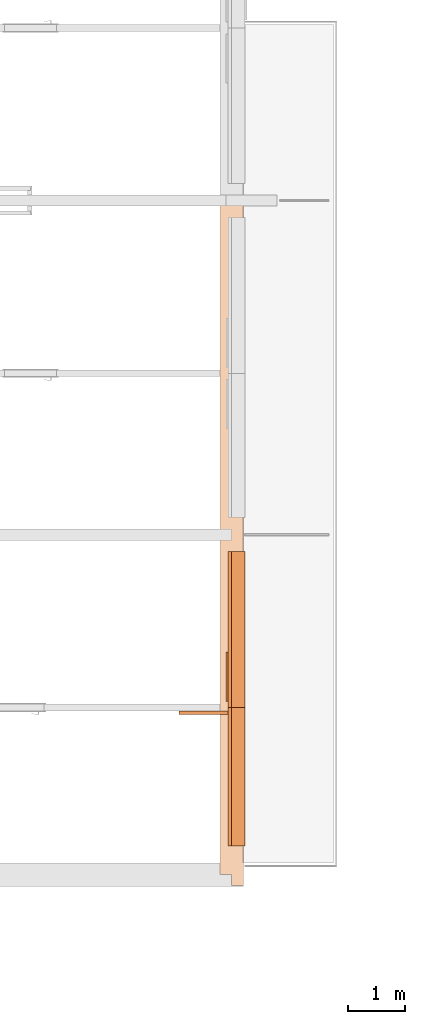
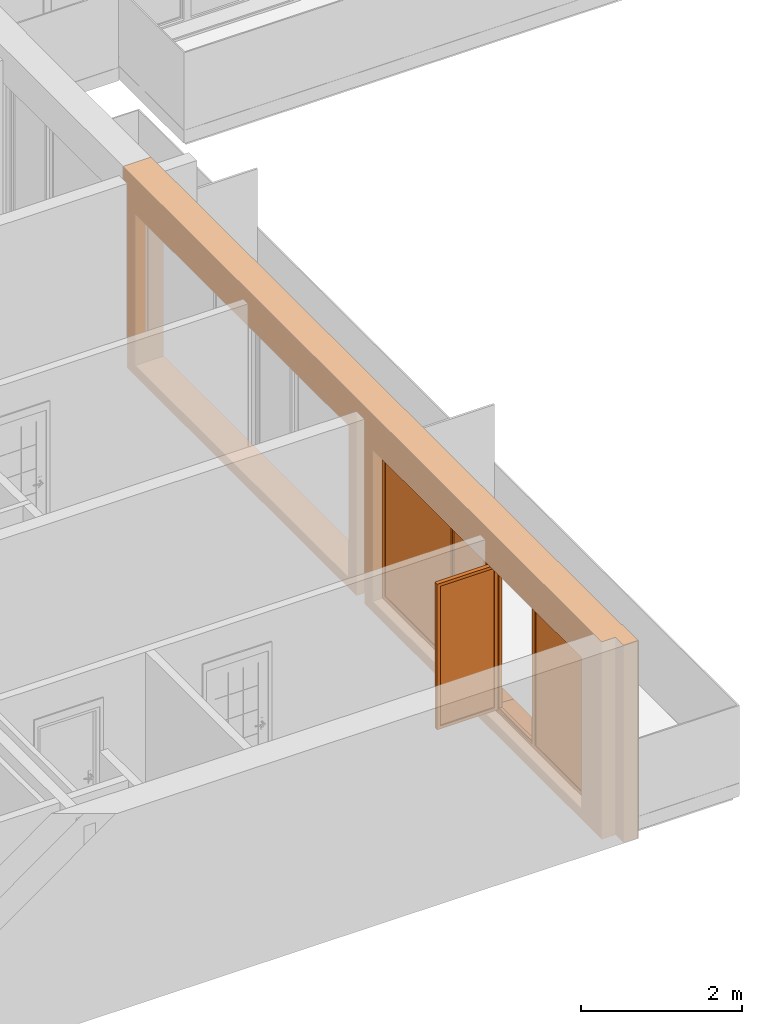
# One storey, part 45 of 64: 2 proxies, 4 openings, plus 1 element that does not belong to this part.
"""IFC2X3 building model written with IfcOpenShell, lengths in millimetres."""

from ifc_helpers import new_model, entity, si_unit, converted_unit, derived_unit, money_unit, direction, frame, origin_with_axes, origin_2d_with_axis, place, context, subcontext, project, spatial, rectangle, extrude, open_shell, faceted_brep, surface_model, source, transform, mapped, material, material_list, type_object, element, fill, save


model = new_model("IFC2X3")

# Units and contexts
model_context = context("Model", 3, precision=0.01, world=origin_with_axes(), true_north=direction((0.34421633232, 0.938890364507)))
body_context = subcontext(model_context, "Body", "Model", "MODEL_VIEW")
ifc_project = project(units=[si_unit("LENGTHUNIT", "METRE", prefix="MILLI"), si_unit("AREAUNIT", "SQUARE_METRE"), si_unit("VOLUMEUNIT", "CUBIC_METRE"), converted_unit("PLANEANGLEUNIT", "DEGREE", entity("IfcPlaneAngleMeasure", 0.0174532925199), si_unit("PLANEANGLEUNIT", "RADIAN"), dimensions=[0, 0, 0, 0, 0, 0, 0]), si_unit("SOLIDANGLEUNIT", "STERADIAN"), money_unit("USD"), converted_unit("TIMEUNIT", "Year", entity("IfcTimeMeasure", 31556926.0), si_unit("TIMEUNIT", "SECOND"), dimensions=[0, 0, 1, 0, 0, 0, 0]), si_unit("MASSUNIT", "GRAM", prefix="KILO"), si_unit("THERMODYNAMICTEMPERATUREUNIT", "DEGREE_CELSIUS"), si_unit("LUMINOUSINTENSITYUNIT", "LUMEN"), si_unit("ENERGYUNIT", "JOULE", prefix="MEGA"), derived_unit("THERMALCONDUCTANCEUNIT", [(si_unit("POWERUNIT", "WATT"), 1), (si_unit("LENGTHUNIT", "METRE"), -1), (si_unit("THERMODYNAMICTEMPERATUREUNIT", "KELVIN"), -1)]), derived_unit("SPECIFICHEATCAPACITYUNIT", [(si_unit("ENERGYUNIT", "JOULE"), 1), (si_unit("MASSUNIT", "GRAM", prefix="KILO"), -1), (si_unit("THERMODYNAMICTEMPERATUREUNIT", "KELVIN"), -1)]), derived_unit("MASSDENSITYUNIT", [(si_unit("MASSUNIT", "GRAM", prefix="KILO"), 1), (si_unit("VOLUMEUNIT", "CUBIC_METRE"), -1)])], contexts=[model_context])

# Site, building, storey
site_placement = place(None, origin_with_axes())
site = spatial("IfcSite", under=ifc_project, at=site_placement, Name="USTRONIE MORSKIE", CompositionType="ELEMENT")
building_placement = place(site_placement, origin_with_axes())
building = spatial("IfcBuilding", under=site, at=building_placement, Name="Budynek", CompositionType="ELEMENT")
storey_placement = place(building_placement, frame((0.0, 0.0, 7000.0), z_axis=(0.0, 0.0, 1.0), x_axis=(1.0, 0.0, 0.0)))
storey = spatial("IfcBuildingStorey", under=building, at=storey_placement, Name="PIĘTRO 2", CompositionType="ELEMENT", Elevation=7000.0)

# Proxies, openings
ifc_material_1 = material(Name="Beton konstrukcyjny B25")
ifc_material_2 = material(Name="Wełna ELEW")
ifc_material_3 = material(Name="Tynk zewnętrzny")
ifc_material_list = material_list([ifc_material_1, ifc_material_2, ifc_material_3])
building_element_proxy_type_1 = type_object("IfcBuildingElementProxyType", Name="20+20 410", PredefinedType="NOTDEFINED")
proxy_1_placement = place(storey_placement, frame((367067.957311, 709201.199036, -160.0), z_axis=(0.0, 0.0, 1.0), x_axis=(-2.10080135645e-06, 0.999999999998, 0.0)))
proxy_1 = element("IfcBuildingElementProxy", 1, at=proxy_1_placement, inside=storey, type_object=building_element_proxy_type_1, material=ifc_material_list, Name="SZ-01", context=body_context, shape_type="Brep", body=[
    faceted_brep([(5799.99975733, -100.0, 0.0), (5799.99975733, -100.0, 2800.0), (5999.99975734, -100.0, 2800.0), (5999.99975734, -100.0, 0.0), (11699.9997899, -100.0, 0.0), (11699.9997899, -100.0, 2800.0), (11800.0, -100.0, 2800.0), (11800.0, -100.0, 3000.0), (-100.00021008, -100.0, 3000.0), (-100.00021008, -100.0, 0.0), (5800.0001775, 100.0, 0.0), (5800.0001775, 100.0, 2800.0), (6000.0001775, 100.0, 2800.0), (6000.0001775, 100.0, 0.0), (11700.0002101, 100.0, 0.0), (11700.0, 7.00267150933e-05, 0.0), (11700.0, 7.00267150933e-05, 2800.0), (11800.0, 7.00267150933e-05, 2800.0), (11800.0, 100.0, 2800.0), (11800.0, 100.0, 3000.0), (-99.99978992, 100.0, 3000.0), (-99.99978992, 100.0, 0.0), (11700.0002101, 100.0, 2800.0)], [[[0, 1, 2, 3, 4, 5, 6, 7, 8, 9]], [[1, 0, 10, 11]], [[2, 1, 11, 12]], [[3, 2, 12, 13]], [[3, 13, 14, 15, 4]], [[5, 4, 15, 16]], [[17, 6, 5, 16]], [[17, 18, 19, 7, 6]], [[8, 7, 19, 20]], [[9, 8, 20, 21]], [[10, 0, 9, 21]], [[11, 10, 21, 20, 19, 18, 22, 14, 13, 12]], [[15, 14, 22, 16]], [[18, 17, 16, 22]]]),
    faceted_brep([(-300.000630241, -300.0, 0.0), (11699.9993698, -300.0, 0.0), (11699.9993698, -300.0, 2800.0), (11800.0, -300.0, 2800.0), (11800.0, -300.0, 3000.0), (-300.000630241, -300.0, 3000.0), (-300.000210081, -100.0, 0.0), (11699.9997899, -100.0, 0.0), (11699.9997899, -100.0, 2800.0), (11800.0, -100.0, 2800.0), (11800.0, -100.0, 3000.0), (-300.000210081, -100.0, 3000.0)], [[[0, 1, 2, 3, 4, 5]], [[6, 7, 1, 0]], [[8, 2, 1, 7]], [[8, 9, 3, 2]], [[4, 3, 9, 10]], [[11, 5, 4, 10]], [[6, 0, 5, 11]], [[9, 8, 7, 6, 11, 10]]]),
    faceted_brep([(11699.9993488, -310.0, 2800.0), (99.9993487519, -310.0, 2800.0), (99.9993487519, -310.0, 3000.0), (-310.000651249, -310.0, 3000.0), (-310.000651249, -310.0, 0.0), (99.9993487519, -310.0, 0.0), (99.9993487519, -310.0, 5.0), (99.9993487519, -310.0, 85.0), (99.9993487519, -310.0, 110.0), (11699.9993488, -310.0, 110.0), (11699.9993698, -300.000632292, 2800.0), (99.999369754, -300.00281711, 2800.0), (99.999369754, -300.00281711, 3000.0), (-310.000630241, -300.0, 3000.0), (-310.000630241, -300.0, 0.0), (99.9993697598, -300.000048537, 0.0), (99.9993697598, -300.000048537, 5.0), (99.9993697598, -300.000048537, 85.0), (99.9993697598, -300.000048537, 110.0), (11699.9993698, -299.997863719, 110.0)], [[[0, 1, 2, 3, 4, 5, 6, 7, 8, 9]], [[1, 0, 10, 11]], [[12, 2, 1, 11]], [[2, 12, 13, 3]], [[14, 4, 3, 13]], [[15, 5, 4, 14]], [[16, 6, 5, 15]], [[17, 7, 6, 16]], [[8, 7, 17, 18]], [[9, 8, 18, 19]], [[10, 0, 9, 19]], [[11, 10, 19, 18, 17, 16, 15, 14, 13, 12]]]),
])
opening_1_placement = place(proxy_1_placement, frame((10124.9903356, 1.13686837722e-10, 160.0), z_axis=(0.0, 0.0, 1.0), x_axis=(1.0, 0.0, 0.0)))
element("IfcOpeningElement", 2, at=opening_1_placement, cuts=proxy_1, Name="Wz.05", context=body_context, shape_type="SweptSolid", body=[
    extrude(rectangle(XDim=2749.94323081, YDim=2300.0, at=origin_2d_with_axis()), frame((0.0, -100.0, 1150.0), z_axis=(0.0, -1.0, 0.0), x_axis=(-1.0, 0.0, 0.0)), (0.0, 0.0, 1.0), 620.0),
    extrude(rectangle(XDim=2749.94323081, YDim=2300.0, at=origin_2d_with_axis()), frame((-1.13686837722e-10, -100.0, 1150.0), z_axis=(0.0, 1.0, 0.0), x_axis=(-1.0, 0.0, 0.0)), (0.0, 0.0, 1.0), 610.0),
])
opening_2_placement = place(proxy_1_placement, frame((7475.0069156, 1.13686837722e-10, 160.0), z_axis=(0.0, 0.0, 1.0), x_axis=(1.0, 0.0, 0.0)))
element("IfcOpeningElement", 3, at=opening_2_placement, cuts=proxy_1, Name="Wz.05", context=body_context, shape_type="SweptSolid", body=[
    extrude(rectangle(XDim=2550.02360912, YDim=2300.0, at=origin_2d_with_axis()), frame((-1.13686837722e-10, -100.0, 1150.0), z_axis=(0.0, 1.0, 0.0), x_axis=(1.0, 0.0, 0.0)), (0.0, 0.0, -1.0), 620.0),
    extrude(rectangle(XDim=2550.02360912, YDim=2300.0, at=origin_2d_with_axis()), frame((-1.13686837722e-10, -100.0, 1150.0), z_axis=(0.0, -1.0, 0.0), x_axis=(1.0, 0.0, 0.0)), (0.0, 0.0, -1.0), 610.0),
])
opening_3_placement = place(proxy_1_placement, frame((4225.01241069, 1.13686837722e-10, 160.0), z_axis=(0.0, 0.0, 1.0), x_axis=(1.0, 0.0, 0.0)))
opening_3 = element("IfcOpeningElement", 4, at=opening_3_placement, cuts=proxy_1, Name="Wz.05", context=body_context, shape_type="SweptSolid", body=[
    extrude(rectangle(XDim=2749.98566828, YDim=2300.0, at=origin_2d_with_axis()), frame((2.27373675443e-10, -100.0, 1150.0), z_axis=(0.0, -1.0, 0.0), x_axis=(-1.0, 0.0, 0.0)), (0.0, 0.0, 1.0), 620.0),
    extrude(rectangle(XDim=2749.98566828, YDim=2300.0, at=origin_2d_with_axis()), frame((1.13686837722e-10, -100.0, 1150.0), z_axis=(0.0, 1.0, 0.0), x_axis=(-1.0, 0.0, 0.0)), (0.0, 0.0, 1.0), 610.0),
])
opening_4_placement = place(proxy_1_placement, frame((1625.00742279, 1.13686837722e-10, 160.0), z_axis=(0.0, 0.0, 1.0), x_axis=(1.0, 0.0, 0.0)))
opening_4 = element("IfcOpeningElement", 5, at=opening_4_placement, cuts=proxy_1, Name="Wz.05", context=body_context, shape_type="SweptSolid", body=[
    extrude(rectangle(XDim=2450.02430751, YDim=2300.0, at=origin_2d_with_axis()), frame((0.0, -100.0, 1150.0), z_axis=(0.0, 1.0, 0.0), x_axis=(1.0, 0.0, 0.0)), (0.0, 0.0, -1.0), 620.0),
    extrude(rectangle(XDim=2450.02430751, YDim=2300.0, at=origin_2d_with_axis()), frame((0.0, -100.0, 1150.0), z_axis=(0.0, -1.0, 0.0), x_axis=(1.0, 0.0, 0.0)), (0.0, 0.0, -1.0), 610.0),
])
building_element_proxy_type_2 = type_object("IfcBuildingElementProxyType", Name="Okno podwójne 23", PredefinedType="NOTDEFINED")
shared_shape_1 = source(origin_with_axes(), body_context, "Body", "SurfaceModel", [
    surface_model("IfcShellBasedSurfaceModel", [(1374.99283414, -61.0, 50.0), (-1374.99283414, -61.0, 50.0), (-1374.99283414, -61.0, 40.0), (1374.99283414, -61.0, 40.0), (-1374.99283414, -300.0, 28.5714285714), (1374.99283414, -300.0, 28.5714285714), (-1374.99283414, -300.0, 8.57142857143), (1374.99283414, -300.0, 8.57142857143), (-1374.99283414, -290.0, 18.5714285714), (1374.99283414, -290.0, 18.5714285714)], [open_shell([[[0, 1, 2, 3]], [[3, 2, 4, 5]], [[5, 4, 6, 7]], [[7, 6, 8, 9]]])]),
    faceted_brep([(-1249.99283414, -20.0, 2235.0), (-1269.99283414, -20.0, 2235.0), (-1269.99283414, 0.0, 2235.0), (-1374.99283414, 0.0, 2235.0), (-1374.99283414, -60.0, 2235.0), (-1249.99283414, -60.0, 2235.0), (-1249.99283414, -20.0, 65.0), (-1269.99283414, -20.0, 65.0), (-1269.99283414, 0.0, 65.0), (-1374.99283414, 0.0, 65.0), (-1374.99283414, -60.0, 65.0), (-1249.99283414, -60.0, 65.0)], [[[0, 1, 2, 3, 4, 5]], [[1, 0, 6, 7]], [[8, 2, 1, 7]], [[2, 8, 9, 3]], [[9, 10, 4, 3]], [[10, 11, 5, 4]], [[6, 0, 5, 11]], [[7, 6, 11, 10, 9, 8]]]),
    faceted_brep([(-399.992834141, 0.0, 2235.0), (-399.992834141, -20.0, 2235.0), (-419.992834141, -20.0, 2235.0), (-419.992834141, -60.0, 2235.0), (-319.992834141, -60.0, 2235.0), (-319.992834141, 0.0, 2235.0), (-399.992834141, 0.0, 65.0), (-399.992834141, -20.0, 65.0), (-419.992834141, -20.0, 65.0), (-419.992834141, -60.0, 65.0), (-319.992834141, -60.0, 65.0), (-319.992834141, 0.0, 65.0)], [[[0, 1, 2, 3, 4, 5]], [[1, 0, 6, 7]], [[8, 2, 1, 7]], [[2, 8, 9, 3]], [[9, 10, 4, 3]], [[5, 4, 10, 11]], [[6, 0, 5, 11]], [[7, 6, 11, 10, 9, 8]]]),
    faceted_brep([(-1249.99283414, -20.0, 65.0), (-1269.99283414, -20.0, 65.0), (-1269.99283414, 0.0, 65.0), (-1374.99283414, 0.0, 65.0), (-1374.99283414, -60.0, 65.0), (-1249.99283414, -60.0, 65.0), (-419.992834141, -20.0, 65.0), (-399.992834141, -20.0, 65.0), (-399.992834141, -20.0, 45.0), (-1269.99283414, -20.0, 45.0), (-1269.99283414, 0.0, 45.0), (-399.992834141, 0.0, 45.0), (-399.992834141, 0.0, 65.0), (-319.992834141, 0.0, 65.0), (1309.99283414, 0.0, 65.0), (1374.99283414, 0.0, 65.0), (1374.99283414, 0.0, 0.0), (-1374.99283414, 0.0, 0.0), (-1374.99283414, -60.0, 0.0), (1374.99283414, -60.0, 65.0), (1309.99283414, -60.0, 65.0), (-319.992834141, -60.0, 65.0), (-419.992834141, -60.0, 65.0), (1374.99283414, -60.0, 0.0)], [[[0, 1, 2, 3, 4, 5]], [[1, 0, 6, 7, 8, 9]], [[10, 2, 1, 9]], [[11, 12, 13, 14, 15, 16, 17, 3, 2, 10]], [[17, 18, 4, 3]], [[19, 20, 21, 22, 5, 4, 18, 23]], [[6, 0, 5, 22]], [[7, 6, 22, 21, 13, 12]], [[7, 12, 11, 8]], [[11, 10, 9, 8]], [[13, 21, 20, 14]], [[14, 20, 19, 15]], [[15, 19, 23, 16]], [[16, 23, 18, 17]]]),
    faceted_brep([(-399.992834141, 0.0, 2235.0), (-399.992834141, 0.0, 2255.0), (-1269.99283414, 0.0, 2255.0), (-1269.99283414, 0.0, 2235.0), (-1374.99283414, 0.0, 2235.0), (-1374.99283414, 0.0, 2300.0), (1374.99283414, 0.0, 2300.0), (1374.99283414, 0.0, 2235.0), (1309.99283414, 0.0, 2235.0), (-319.992834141, 0.0, 2235.0), (-399.992834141, -20.0, 2235.0), (-399.992834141, -20.0, 2255.0), (-1269.99283414, -20.0, 2255.0), (-1269.99283414, -20.0, 2235.0), (-1249.99283414, -20.0, 2235.0), (-1249.99283414, -60.0, 2235.0), (-1374.99283414, -60.0, 2235.0), (-1374.99283414, -60.0, 2300.0), (1374.99283414, -60.0, 2300.0), (1374.99283414, -60.0, 2235.0), (1309.99283414, -60.0, 2235.0), (-319.992834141, -60.0, 2235.0), (-419.992834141, -60.0, 2235.0), (-419.992834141, -20.0, 2235.0)], [[[0, 1, 2, 3, 4, 5, 6, 7, 8, 9]], [[1, 0, 10, 11]], [[2, 1, 11, 12]], [[3, 2, 12, 13]], [[13, 14, 15, 16, 4, 3]], [[4, 16, 17, 5]], [[5, 17, 18, 6]], [[6, 18, 19, 7]], [[7, 19, 20, 8]], [[8, 20, 21, 9]], [[10, 0, 9, 21, 22, 23]], [[14, 13, 12, 11, 10, 23]], [[14, 23, 22, 15]], [[22, 21, 20, 19, 18, 17, 16, 15]]]),
    faceted_brep([(1309.99283414, -60.0, 2235.0), (1374.99283414, -60.0, 2235.0), (1374.99283414, 0.0, 2235.0), (1309.99283414, 0.0, 2235.0), (1309.99283414, -60.0, 65.0), (1374.99283414, -60.0, 65.0), (1374.99283414, 0.0, 65.0), (1309.99283414, 0.0, 65.0)], [[[0, 1, 2, 3]], [[0, 4, 5, 1]], [[1, 5, 6, 2]], [[3, 2, 6, 7]], [[4, 0, 3, 7]], [[5, 4, 7, 6]]]),
    surface_model("IfcShellBasedSurfaceModel", [(1309.99283414, -30.0, 65.0), (1309.99283414, -30.0, 2235.0), (-319.992834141, -30.0, 2235.0), (-319.992834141, -30.0, 65.0)], [open_shell([[[0, 1, 2, 3]]])]),
    surface_model("IfcShellBasedSurfaceModel", [(1309.99283414, -10.0, 65.0), (-319.992834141, -10.0, 65.0), (-319.992834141, -10.0, 2235.0), (1309.99283414, -10.0, 2235.0)], [open_shell([[[0, 1, 2, 3]]])]),
    faceted_brep([(-444.992834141, -20.0, 2210.0), (-399.992834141, -20.0, 2210.0), (-399.992834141, 40.0, 2210.0), (-444.992834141, 40.0, 2210.0), (-444.992834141, -20.0, 90.0), (-399.992834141, -20.0, 90.0), (-399.992834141, 40.0, 90.0), (-444.992834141, 40.0, 90.0)], [[[0, 1, 2, 3]], [[0, 4, 5, 1]], [[1, 5, 6, 2]], [[3, 2, 6, 7]], [[4, 0, 3, 7]], [[5, 4, 7, 6]]]),
    faceted_brep([(-1224.99283414, -20.0, 90.0), (-1269.99283414, -20.0, 90.0), (-1269.99283414, 40.0, 90.0), (-1224.99283414, 40.0, 90.0), (-1224.99283414, -20.0, 2210.0), (-1269.99283414, -20.0, 2210.0), (-1269.99283414, 40.0, 2210.0), (-1224.99283414, 40.0, 2210.0)], [[[0, 1, 2, 3]], [[0, 4, 5, 1]], [[1, 5, 6, 2]], [[3, 2, 6, 7]], [[4, 0, 3, 7]], [[5, 4, 7, 6]]]),
    faceted_brep([(-1269.99283414, -20.0, 45.0), (-1269.99283414, -20.0, 90.0), (-1269.99283414, 40.0, 90.0), (-1269.99283414, 40.0, 45.0), (-399.992834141, -20.0, 45.0), (-399.992834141, -20.0, 90.0), (-444.992834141, -20.0, 90.0), (-1224.99283414, -20.0, 90.0), (-1224.99283414, 40.0, 90.0), (-444.992834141, 40.0, 90.0), (-399.992834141, 40.0, 90.0), (-399.992834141, 40.0, 45.0)], [[[0, 1, 2, 3]], [[0, 4, 5, 6, 7, 1]], [[1, 7, 8, 2]], [[3, 2, 8, 9, 10, 11]], [[4, 0, 3, 11]], [[5, 4, 11, 10]], [[6, 5, 10, 9]], [[7, 6, 9, 8]]]),
    faceted_brep([(-399.992834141, -20.0, 2255.0), (-399.992834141, -20.0, 2210.0), (-399.992834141, 40.0, 2210.0), (-399.992834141, 40.0, 2255.0), (-1269.99283414, -20.0, 2255.0), (-1269.99283414, -20.0, 2210.0), (-1224.99283414, -20.0, 2210.0), (-444.992834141, -20.0, 2210.0), (-444.992834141, 40.0, 2210.0), (-1224.99283414, 40.0, 2210.0), (-1269.99283414, 40.0, 2210.0), (-1269.99283414, 40.0, 2255.0)], [[[0, 1, 2, 3]], [[0, 4, 5, 6, 7, 1]], [[1, 7, 8, 2]], [[3, 2, 8, 9, 10, 11]], [[4, 0, 3, 11]], [[5, 4, 11, 10]], [[6, 5, 10, 9]], [[7, 6, 9, 8]]]),
    surface_model("IfcShellBasedSurfaceModel", [(-444.992834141, 0.0, 90.0), (-444.992834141, 0.0, 2210.0), (-1224.99283414, 0.0, 2210.0), (-1224.99283414, 0.0, 90.0)], [open_shell([[[0, 1, 2, 3]]])]),
    surface_model("IfcShellBasedSurfaceModel", [(-444.992834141, 20.0, 90.0), (-1224.99283414, 20.0, 90.0), (-1224.99283414, 20.0, 2210.0), (-444.992834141, 20.0, 2210.0)], [open_shell([[[0, 1, 2, 3]]])]),
])
proxy_2_placement = place(opening_3_placement, frame((-1374.99283414, -1.70530256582e-10, 0.0), z_axis=(0.0, 0.0, 1.0), x_axis=(1.0, 0.0, 0.0)))
proxy_2 = element("IfcBuildingElementProxy", 6, at=proxy_2_placement, inside=storey, type_object=building_element_proxy_type_2, Name="Wz.05", context=body_context, shape_type="MappedRepresentation", body=[
    mapped(shared_shape_1, transform((1374.99283414, -40.0, 0.0))),
])
fill(opening_3, proxy_2)
shared_shape_2 = source(origin_with_axes(), body_context, "Body", "SurfaceModel", [
    surface_model("IfcShellBasedSurfaceModel", [(-1225.01215376, -61.0, 50.0), (-1225.01215376, -61.0, 40.0), (1225.01215376, -61.0, 40.0), (1225.01215376, -61.0, 50.0), (-1225.01215376, -300.0, 28.5714285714), (1225.01215376, -300.0, 28.5714285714), (-1225.01215376, -300.0, 8.57142857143), (1225.01215376, -300.0, 8.57142857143), (-1225.01215376, -290.0, 18.5714285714), (1225.01215376, -290.0, 18.5714285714)], [open_shell([[[0, 1, 2, 3]], [[1, 4, 5, 2]], [[4, 6, 7, 5]], [[6, 8, 9, 7]]])]),
    faceted_brep([(1100.01215376, -20.0, 2235.0), (1100.01215376, -60.0, 2235.0), (1225.01215376, -60.0, 2235.0), (1225.01215376, 0.0, 2235.0), (1120.01215376, 0.0, 2235.0), (1120.01215376, -20.0, 2235.0), (1100.01215376, -20.0, 65.0), (1100.01215376, -60.0, 65.0), (1225.01215376, -60.0, 65.0), (1225.01215376, 0.0, 65.0), (1120.01215376, 0.0, 65.0), (1120.01215376, -20.0, 65.0)], [[[0, 1, 2, 3, 4, 5]], [[6, 7, 1, 0]], [[8, 2, 1, 7]], [[9, 3, 2, 8]], [[4, 3, 9, 10]], [[10, 11, 5, 4]], [[5, 11, 6, 0]], [[11, 10, 9, 8, 7, 6]]]),
    faceted_brep([(250.012153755, 0.0, 2235.0), (170.012153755, 0.0, 2235.0), (170.012153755, -60.0, 2235.0), (270.012153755, -60.0, 2235.0), (270.012153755, -20.0, 2235.0), (250.012153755, -20.0, 2235.0), (250.012153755, 0.0, 65.0), (170.012153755, 0.0, 65.0), (170.012153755, -60.0, 65.0), (270.012153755, -60.0, 65.0), (270.012153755, -20.0, 65.0), (250.012153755, -20.0, 65.0)], [[[0, 1, 2, 3, 4, 5]], [[6, 7, 1, 0]], [[1, 7, 8, 2]], [[9, 3, 2, 8]], [[4, 3, 9, 10]], [[10, 11, 5, 4]], [[5, 11, 6, 0]], [[11, 10, 9, 8, 7, 6]]]),
    faceted_brep([(1100.01215376, -20.0, 65.0), (1100.01215376, -60.0, 65.0), (1225.01215376, -60.0, 65.0), (1225.01215376, 0.0, 65.0), (1120.01215376, 0.0, 65.0), (1120.01215376, -20.0, 65.0), (270.012153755, -20.0, 65.0), (270.012153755, -60.0, 65.0), (-1225.01215376, -60.0, 65.0), (-1225.01215376, -60.0, 0.0), (1225.01215376, -60.0, 0.0), (170.012153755, -60.0, 65.0), (-1160.01215376, -60.0, 65.0), (1225.01215376, 0.0, 0.0), (250.012153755, 0.0, 45.0), (1120.01215376, 0.0, 45.0), (-1225.01215376, 0.0, 0.0), (-1225.01215376, 0.0, 65.0), (-1160.01215376, 0.0, 65.0), (170.012153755, 0.0, 65.0), (250.012153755, 0.0, 65.0), (1120.01215376, -20.0, 45.0), (250.012153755, -20.0, 45.0), (250.012153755, -20.0, 65.0)], [[[0, 1, 2, 3, 4, 5]], [[6, 7, 1, 0]], [[8, 9, 10, 2, 1, 7, 11, 12]], [[13, 3, 2, 10]], [[14, 15, 4, 3, 13, 16, 17, 18, 19, 20]], [[15, 21, 5, 4]], [[5, 21, 22, 23, 6, 0]], [[23, 20, 19, 11, 7, 6]], [[17, 16, 9, 8]], [[16, 13, 10, 9]], [[19, 18, 12, 11]], [[18, 17, 8, 12]], [[14, 22, 21, 15]], [[23, 22, 14, 20]]]),
    faceted_brep([(250.012153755, 0.0, 2235.0), (170.012153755, 0.0, 2235.0), (-1160.01215376, 0.0, 2235.0), (-1225.01215376, 0.0, 2235.0), (-1225.01215376, 0.0, 2300.0), (1225.01215376, 0.0, 2300.0), (1225.01215376, 0.0, 2235.0), (1120.01215376, 0.0, 2235.0), (1120.01215376, 0.0, 2255.0), (250.012153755, 0.0, 2255.0), (250.012153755, -20.0, 2235.0), (270.012153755, -20.0, 2235.0), (270.012153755, -60.0, 2235.0), (170.012153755, -60.0, 2235.0), (-1160.01215376, -60.0, 2235.0), (-1225.01215376, -60.0, 2235.0), (-1225.01215376, -60.0, 2300.0), (1225.01215376, -60.0, 2300.0), (1225.01215376, -60.0, 2235.0), (1120.01215376, -20.0, 2235.0), (1100.01215376, -60.0, 2235.0), (1100.01215376, -20.0, 2235.0), (1120.01215376, -20.0, 2255.0), (250.012153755, -20.0, 2255.0)], [[[0, 1, 2, 3, 4, 5, 6, 7, 8, 9]], [[10, 11, 12, 13, 1, 0]], [[2, 1, 13, 14]], [[3, 2, 14, 15]], [[4, 3, 15, 16]], [[5, 4, 16, 17]], [[6, 5, 17, 18]], [[19, 7, 6, 18, 20, 21]], [[7, 19, 22, 8]], [[8, 22, 23, 9]], [[9, 23, 10, 0]], [[21, 11, 10, 23, 22, 19]], [[21, 20, 12, 11]], [[12, 20, 18, 17, 16, 15, 14, 13]]]),
    faceted_brep([(-1160.01215376, -60.0, 2235.0), (-1160.01215376, 0.0, 2235.0), (-1225.01215376, 0.0, 2235.0), (-1225.01215376, -60.0, 2235.0), (-1160.01215376, -60.0, 65.0), (-1160.01215376, 0.0, 65.0), (-1225.01215376, 0.0, 65.0), (-1225.01215376, -60.0, 65.0)], [[[0, 1, 2, 3]], [[4, 5, 1, 0]], [[1, 5, 6, 2]], [[3, 2, 6, 7]], [[0, 3, 7, 4]], [[7, 6, 5, 4]]]),
    surface_model("IfcShellBasedSurfaceModel", [(-1160.01215376, -30.0, 65.0), (170.012153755, -30.0, 65.0), (170.012153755, -30.0, 2235.0), (-1160.01215376, -30.0, 2235.0)], [open_shell([[[0, 1, 2, 3]]])]),
    surface_model("IfcShellBasedSurfaceModel", [(-1160.01215376, -10.0, 65.0), (-1160.01215376, -10.0, 2235.0), (170.012153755, -10.0, 2235.0), (170.012153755, -10.0, 65.0)], [open_shell([[[0, 1, 2, 3]]])]),
    faceted_brep([(1100.01215376, 825.0, 2210.0), (1160.01215376, 825.0, 2210.0), (1160.01215376, 870.0, 2210.0), (1100.01215376, 870.0, 2210.0), (1100.01215376, 825.0, 90.0), (1160.01215376, 825.0, 90.0), (1160.01215376, 870.0, 90.0), (1100.01215376, 870.0, 90.0)], [[[0, 1, 2, 3]], [[4, 5, 1, 0]], [[1, 5, 6, 2]], [[3, 2, 6, 7]], [[0, 3, 7, 4]], [[7, 6, 5, 4]]]),
    faceted_brep([(1100.01215376, 45.0, 90.0), (1160.01215376, 45.0, 90.0), (1160.01215376, 0.0, 90.0), (1100.01215376, 0.0, 90.0), (1100.01215376, 45.0, 2210.0), (1160.01215376, 45.0, 2210.0), (1160.01215376, 0.0, 2210.0), (1100.01215376, 0.0, 2210.0)], [[[0, 1, 2, 3]], [[4, 5, 1, 0]], [[1, 5, 6, 2]], [[3, 2, 6, 7]], [[0, 3, 7, 4]], [[7, 6, 5, 4]]]),
    faceted_brep([(1100.01215376, 0.0, 45.0), (1160.01215376, 0.0, 45.0), (1160.01215376, 0.0, 90.0), (1100.01215376, 0.0, 90.0), (1100.01215376, 870.0, 45.0), (1160.01215376, 870.0, 45.0), (1160.01215376, 870.0, 90.0), (1160.01215376, 825.0, 90.0), (1160.01215376, 45.0, 90.0), (1100.01215376, 45.0, 90.0), (1100.01215376, 825.0, 90.0), (1100.01215376, 870.0, 90.0)], [[[0, 1, 2, 3]], [[4, 5, 1, 0]], [[1, 5, 6, 7, 8, 2]], [[3, 2, 8, 9]], [[0, 3, 9, 10, 11, 4]], [[11, 6, 5, 4]], [[10, 7, 6, 11]], [[9, 8, 7, 10]]]),
    faceted_brep([(1100.01215376, 870.0, 2255.0), (1160.01215376, 870.0, 2255.0), (1160.01215376, 870.0, 2210.0), (1100.01215376, 870.0, 2210.0), (1100.01215376, 0.0, 2255.0), (1160.01215376, 0.0, 2255.0), (1160.01215376, 0.0, 2210.0), (1160.01215376, 45.0, 2210.0), (1160.01215376, 825.0, 2210.0), (1100.01215376, 825.0, 2210.0), (1100.01215376, 45.0, 2210.0), (1100.01215376, 0.0, 2210.0)], [[[0, 1, 2, 3]], [[4, 5, 1, 0]], [[1, 5, 6, 7, 8, 2]], [[3, 2, 8, 9]], [[0, 3, 9, 10, 11, 4]], [[11, 6, 5, 4]], [[10, 7, 6, 11]], [[9, 8, 7, 10]]]),
    surface_model("IfcShellBasedSurfaceModel", [(1120.01215376, 825.0, 90.0), (1120.01215376, 45.0, 90.0), (1120.01215376, 45.0, 2210.0), (1120.01215376, 825.0, 2210.0)], [open_shell([[[0, 1, 2, 3]]])]),
    surface_model("IfcShellBasedSurfaceModel", [(1140.01215376, 825.0, 90.0), (1140.01215376, 825.0, 2210.0), (1140.01215376, 45.0, 2210.0), (1140.01215376, 45.0, 90.0)], [open_shell([[[0, 1, 2, 3]]])]),
])
proxy_3_placement = place(opening_4_placement, frame((-1225.01215376, 0.0, 0.0), z_axis=(0.0, 0.0, 1.0), x_axis=(1.0, 0.0, 0.0)))
proxy_3 = element("IfcBuildingElementProxy", 7, at=proxy_3_placement, inside=storey, type_object=building_element_proxy_type_2, Name="Wz.05", context=body_context, shape_type="MappedRepresentation", body=[
    mapped(shared_shape_2, transform((1225.01215376, -40.0, 0.0))),
])
fill(opening_4, proxy_3)

save(model, "model.ifc")
